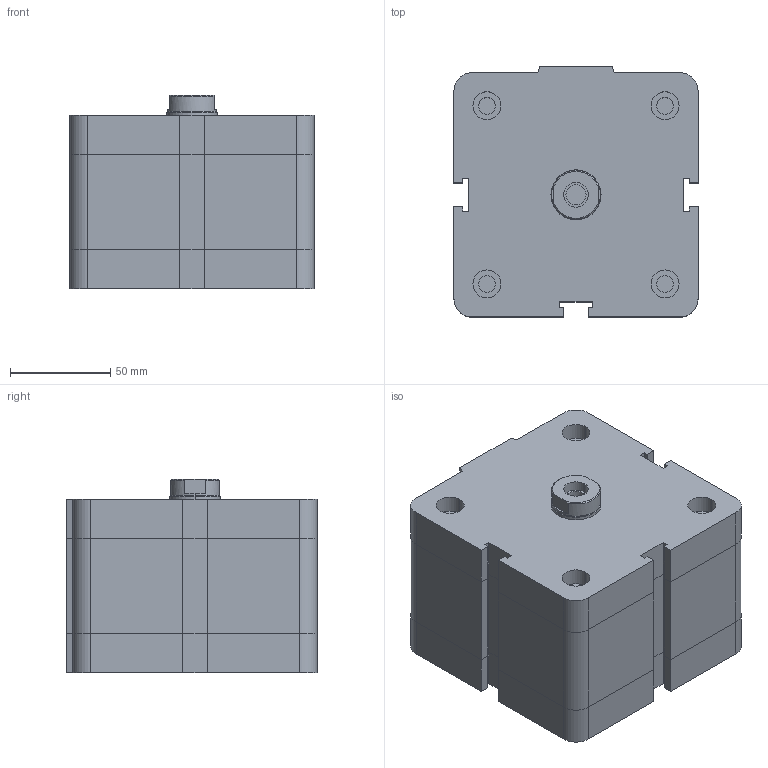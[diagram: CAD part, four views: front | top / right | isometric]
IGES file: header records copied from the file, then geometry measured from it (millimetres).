
Global section: file name: No Iges File Name specified; native system: Autodesk Inventor 2009; preprocessor: AutoDesk Inventor Iges Exporter R2009; author: rivolro1; date: 20081219.153501; units: millimetre
Bounding box: 122 x 125 x 96.5 mm (x, y, z)
Volume: 1248133.2 mm3; surface area: 92186 mm2
Topology: 2 solids, 2 shells, 187 faces, 410 edges, 248 vertices
Faces by surface type: plane 112, bspline 39, revolution 16, cylinder 16, cone 4
